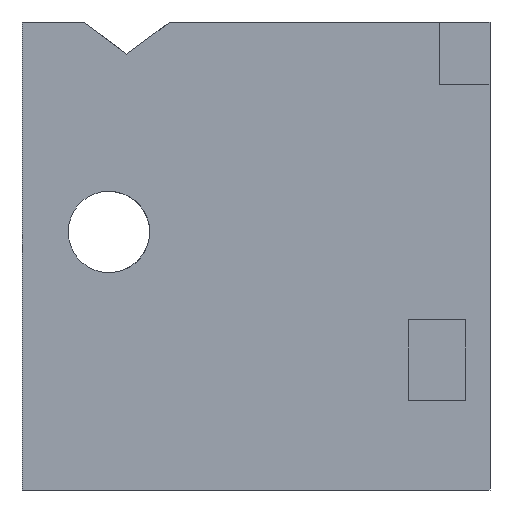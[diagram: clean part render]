
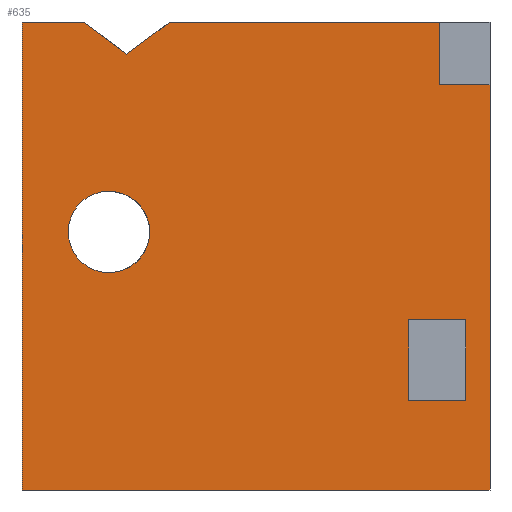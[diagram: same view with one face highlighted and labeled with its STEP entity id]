
A CAD part, left-side view. The second image highlights one B-rep face of the part: STEP entity #635.
In plain terms, the highlighted planar face has unit normal (-1, 0, 0).
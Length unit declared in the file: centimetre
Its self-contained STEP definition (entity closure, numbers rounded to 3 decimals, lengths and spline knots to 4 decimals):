
#3 = EDGE_LOOP ( 'NONE', ( #88, #196 ) ) ;
#17 = AXIS2_PLACEMENT_3D ( 'NONE', #1298, #745, #1411 ) ;
#26 = CARTESIAN_POINT ( 'NONE',  ( 0., 683.5956, 1000. ) ) ;
#27 = EDGE_CURVE ( 'NONE', #75, #505, #1123, .T. ) ;
#54 = DIRECTION ( 'NONE',  ( 0., 0., -1. ) ) ;
#75 = VERTEX_POINT ( 'NONE', #363 ) ;
#77 = CARTESIAN_POINT ( 'NONE',  ( 0., 108.2271, 866.2784 ) ) ;
#86 = AXIS2_PLACEMENT_3D ( 'NONE', #1368, #328, #681 ) ;
#88 = ORIENTED_EDGE ( 'NONE', *, *, #426, .F. ) ;
#93 = VERTEX_POINT ( 'NONE', #1129 ) ;
#99 = LINE ( 'NONE', #572, #235 ) ;
#100 = ORIENTED_EDGE ( 'NONE', *, *, #754, .T. ) ;
#110 = CARTESIAN_POINT ( 'NONE',  ( 0., 1000., 1000. ) ) ;
#118 = PLANE ( 'NONE',  #86 ) ;
#119 = CARTESIAN_POINT ( 'NONE',  ( 0., 108.2271, 866.2784 ) ) ;
#124 = EDGE_LOOP ( 'NONE', ( #100, #1386, #1101, #1467, #984, #519, #1441, #1267, #757 ) ) ;
#150 = LINE ( 'NONE', #1037, #163 ) ;
#151 = DIRECTION ( 'NONE',  ( 0., 0., -1. ) ) ;
#157 = EDGE_CURVE ( 'NONE', #1007, #371, #1015, .T. ) ;
#163 = VECTOR ( 'NONE', #248, 100. ) ;
#186 = CIRCLE ( 'NONE', #17, 86.9916 ) ;
#190 = EDGE_CURVE ( 'NONE', #1335, #505, #1243, .T. ) ;
#193 = VERTEX_POINT ( 'NONE', #970 ) ;
#196 = ORIENTED_EDGE ( 'NONE', *, *, #873, .F. ) ;
#197 = CARTESIAN_POINT ( 'NONE',  ( 0., 683.5956, 1000. ) ) ;
#221 = CARTESIAN_POINT ( 'NONE',  ( 0., 1000., 0. ) ) ;
#235 = VECTOR ( 'NONE', #661, 100. ) ;
#238 = CARTESIAN_POINT ( 'NONE',  ( 0., 0., 866.2784 ) ) ;
#248 = DIRECTION ( 'NONE',  ( 0., 1., 0. ) ) ;
#298 = EDGE_CURVE ( 'NONE', #1333, #1335, #1303, .T. ) ;
#328 = DIRECTION ( 'NONE',  ( 1., 0., 0. ) ) ;
#332 = AXIS2_PLACEMENT_3D ( 'NONE', #1428, #1089, #1082 ) ;
#347 = DIRECTION ( 'NONE',  ( 0., 0., 1. ) ) ;
#358 = VECTOR ( 'NONE', #958, 100. ) ;
#363 = CARTESIAN_POINT ( 'NONE',  ( 0., 0., 866.2784 ) ) ;
#366 = DIRECTION ( 'NONE',  ( 0., 0.803, -0.595 ) ) ;
#371 = VERTEX_POINT ( 'NONE', #937 ) ;
#376 = VECTOR ( 'NONE', #832, 100. ) ;
#380 = EDGE_CURVE ( 'NONE', #1333, #487, #1380, .T. ) ;
#401 = CARTESIAN_POINT ( 'NONE',  ( 0., 1000., 1000. ) ) ;
#412 = ORIENTED_EDGE ( 'NONE', *, *, #157, .F. ) ;
#426 = EDGE_CURVE ( 'NONE', #768, #822, #977, .T. ) ;
#428 = VECTOR ( 'NONE', #452, 100. ) ;
#431 = CARTESIAN_POINT ( 'NONE',  ( 0., 51.4237, 190.9805 ) ) ;
#449 = FACE_BOUND ( 'NONE', #1237, .T. ) ;
#450 = VECTOR ( 'NONE', #366, 100. ) ;
#452 = DIRECTION ( 'NONE',  ( 0., 0., -1. ) ) ;
#487 = VERTEX_POINT ( 'NONE', #980 ) ;
#505 = VERTEX_POINT ( 'NONE', #1443 ) ;
#518 = CARTESIAN_POINT ( 'NONE',  ( 0., 0., 1000. ) ) ;
#519 = ORIENTED_EDGE ( 'NONE', *, *, #27, .F. ) ;
#522 = VERTEX_POINT ( 'NONE', #197 ) ;
#572 = CARTESIAN_POINT ( 'NONE',  ( 0., 51.4237, 190.9805 ) ) ;
#593 = LINE ( 'NONE', #26, #450 ) ;
#635 = ADVANCED_FACE ( 'NONE', ( #915, #449, #1040 ), #118, .F. ) ;
#636 = EDGE_CURVE ( 'NONE', #522, #642, #1133, .T. ) ;
#642 = VERTEX_POINT ( 'NONE', #1355 ) ;
#661 = DIRECTION ( 'NONE',  ( 0., -1., 0. ) ) ;
#681 = DIRECTION ( 'NONE',  ( 0., 0., -1. ) ) ;
#720 = CARTESIAN_POINT ( 'NONE',  ( 0., 1000., 1000. ) ) ;
#745 = DIRECTION ( 'NONE',  ( -1., 0., 0. ) ) ;
#754 = EDGE_CURVE ( 'NONE', #522, #951, #593, .T. ) ;
#756 = VECTOR ( 'NONE', #802, 100. ) ;
#757 = ORIENTED_EDGE ( 'NONE', *, *, #636, .F. ) ;
#760 = ORIENTED_EDGE ( 'NONE', *, *, #1060, .F. ) ;
#768 = VERTEX_POINT ( 'NONE', #1279 ) ;
#801 = ORIENTED_EDGE ( 'NONE', *, *, #1361, .F. ) ;
#802 = DIRECTION ( 'NONE',  ( 0., -1., 0. ) ) ;
#806 = CARTESIAN_POINT ( 'NONE',  ( 0., 776.0543, 931.4862 ) ) ;
#818 = CARTESIAN_POINT ( 'NONE',  ( 0., 814.302, 464.5068 ) ) ;
#822 = VERTEX_POINT ( 'NONE', #818 ) ;
#832 = DIRECTION ( 'NONE',  ( 0., 0.803, 0.595 ) ) ;
#873 = EDGE_CURVE ( 'NONE', #822, #768, #186, .T. ) ;
#915 = FACE_BOUND ( 'NONE', #3, .T. ) ;
#924 = LINE ( 'NONE', #238, #1067 ) ;
#929 = EDGE_CURVE ( 'NONE', #193, #1007, #99, .T. ) ;
#937 = CARTESIAN_POINT ( 'NONE',  ( 0., 51.4237, 363.9587 ) ) ;
#942 = LINE ( 'NONE', #806, #376 ) ;
#951 = VERTEX_POINT ( 'NONE', #999 ) ;
#958 = DIRECTION ( 'NONE',  ( 0., -1., 0. ) ) ;
#959 = ORIENTED_EDGE ( 'NONE', *, *, #929, .F. ) ;
#970 = CARTESIAN_POINT ( 'NONE',  ( 0., 174.1355, 190.9805 ) ) ;
#973 = DIRECTION ( 'NONE',  ( 0., 0., -1. ) ) ;
#977 = CIRCLE ( 'NONE', #332, 86.9916 ) ;
#980 = CARTESIAN_POINT ( 'NONE',  ( 0., 868.513, 1000. ) ) ;
#981 = VECTOR ( 'NONE', #1299, 100. ) ;
#984 = ORIENTED_EDGE ( 'NONE', *, *, #190, .T. ) ;
#991 = LINE ( 'NONE', #1094, #1440 ) ;
#999 = CARTESIAN_POINT ( 'NONE',  ( 0., 776.0543, 931.4862 ) ) ;
#1007 = VERTEX_POINT ( 'NONE', #431 ) ;
#1015 = LINE ( 'NONE', #1356, #1069 ) ;
#1030 = VECTOR ( 'NONE', #973, 100. ) ;
#1037 = CARTESIAN_POINT ( 'NONE',  ( 0., 51.4237, 363.9587 ) ) ;
#1040 = FACE_OUTER_BOUND ( 'NONE', #124, .T. ) ;
#1060 = EDGE_CURVE ( 'NONE', #371, #93, #150, .T. ) ;
#1067 = VECTOR ( 'NONE', #1364, 100. ) ;
#1069 = VECTOR ( 'NONE', #347, 100. ) ;
#1082 = DIRECTION ( 'NONE',  ( 0., 0., 1. ) ) ;
#1089 = DIRECTION ( 'NONE',  ( -1., 0., 0. ) ) ;
#1094 = CARTESIAN_POINT ( 'NONE',  ( 0., 174.1355, 190.9805 ) ) ;
#1101 = ORIENTED_EDGE ( 'NONE', *, *, #380, .F. ) ;
#1123 = LINE ( 'NONE', #518, #1030 ) ;
#1129 = CARTESIAN_POINT ( 'NONE',  ( 0., 174.1355, 363.9587 ) ) ;
#1133 = LINE ( 'NONE', #110, #756 ) ;
#1150 = LINE ( 'NONE', #119, #428 ) ;
#1161 = EDGE_CURVE ( 'NONE', #951, #487, #942, .T. ) ;
#1171 = EDGE_CURVE ( 'NONE', #1366, #75, #924, .T. ) ;
#1186 = VECTOR ( 'NONE', #151, 100. ) ;
#1214 = CARTESIAN_POINT ( 'NONE',  ( 0., 1000., 0. ) ) ;
#1237 = EDGE_LOOP ( 'NONE', ( #412, #959, #801, #760 ) ) ;
#1243 = LINE ( 'NONE', #221, #981 ) ;
#1267 = ORIENTED_EDGE ( 'NONE', *, *, #1426, .F. ) ;
#1279 = CARTESIAN_POINT ( 'NONE',  ( 0., 814.302, 638.49 ) ) ;
#1298 = CARTESIAN_POINT ( 'NONE',  ( 0., 814.302, 551.4984 ) ) ;
#1299 = DIRECTION ( 'NONE',  ( 0., -1., 0. ) ) ;
#1303 = LINE ( 'NONE', #720, #1186 ) ;
#1333 = VERTEX_POINT ( 'NONE', #401 ) ;
#1335 = VERTEX_POINT ( 'NONE', #1214 ) ;
#1355 = CARTESIAN_POINT ( 'NONE',  ( 0., 108.2271, 1000. ) ) ;
#1356 = CARTESIAN_POINT ( 'NONE',  ( 0., 51.4237, 190.9805 ) ) ;
#1361 = EDGE_CURVE ( 'NONE', #93, #193, #991, .T. ) ;
#1364 = DIRECTION ( 'NONE',  ( 0., -1., 0. ) ) ;
#1366 = VERTEX_POINT ( 'NONE', #77 ) ;
#1368 = CARTESIAN_POINT ( 'NONE',  ( 0., 1000., 1000. ) ) ;
#1380 = LINE ( 'NONE', #1408, #358 ) ;
#1386 = ORIENTED_EDGE ( 'NONE', *, *, #1161, .T. ) ;
#1408 = CARTESIAN_POINT ( 'NONE',  ( 0., 1000., 1000. ) ) ;
#1411 = DIRECTION ( 'NONE',  ( 0., 0., 1. ) ) ;
#1426 = EDGE_CURVE ( 'NONE', #642, #1366, #1150, .T. ) ;
#1428 = CARTESIAN_POINT ( 'NONE',  ( 0., 814.302, 551.4984 ) ) ;
#1440 = VECTOR ( 'NONE', #54, 100. ) ;
#1441 = ORIENTED_EDGE ( 'NONE', *, *, #1171, .F. ) ;
#1443 = CARTESIAN_POINT ( 'NONE',  ( 0., 0., 0. ) ) ;
#1467 = ORIENTED_EDGE ( 'NONE', *, *, #298, .T. ) ;
